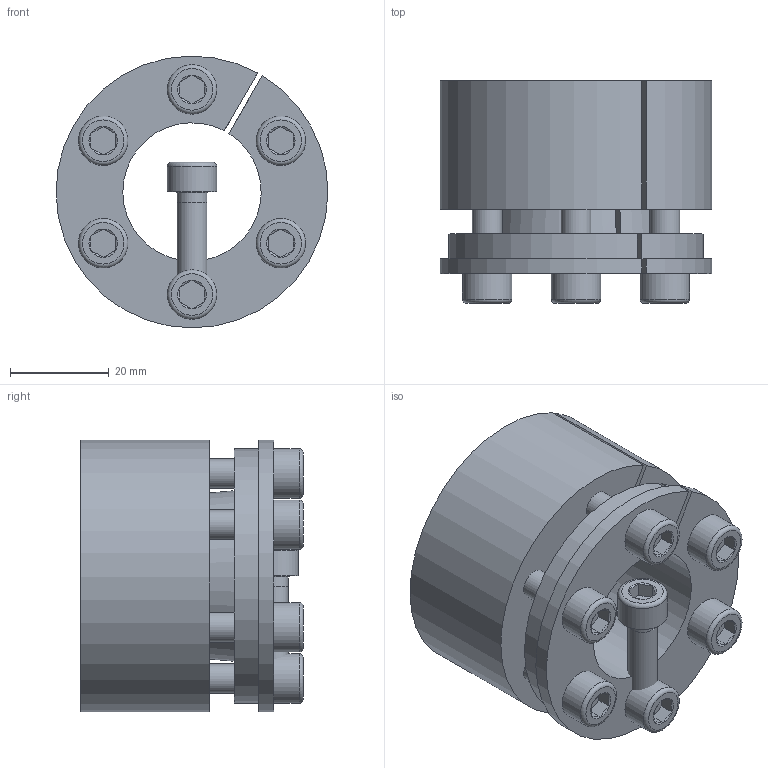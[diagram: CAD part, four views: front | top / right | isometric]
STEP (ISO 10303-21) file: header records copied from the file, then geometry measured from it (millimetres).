
FILE_DESCRIPTION( ( 'Unknown' ), '1' );
FILE_NAME( 'C:/Dokumente und Einstellungen/Sven/Desktop/homepage/cad - homepage/KBS70/KBS 70 - 28 x 55.stp', 'Unknown', ( 'Unknown' ), ( 'Unknown' ), 'XStep 1.0', 'Unknown', ' ' );
FILE_SCHEMA( ( 'automotive_design' ) );
Length unit declared in the file: millimetre
Products named in the file (3): Assem1; KBS 70 - 28 x 55; ISO EN DIN 4762 M6x25
Bounding box: 55 x 45 x 55 mm (x, y, z)
Volume: 114557.6 mm3; surface area: 46519.2 mm2
Topology: 9 solids, 9 shells, 227 faces, 467 edges, 286 vertices
Faces by surface type: plane 100, cylinder 60, cone 53, torus 14
Full cylindrical faces by diameter (mm): 5 x7, 6 x38, 10 x7
Entity records: 1694 total; most frequent: CARTESIAN_POINT 283, DIRECTION 256, ORIENTED_EDGE 190, AXIS2_PLACEMENT_3D 112, EDGE_LOOP 98, EDGE_CURVE 95, VERTEX_POINT 71, FACE_OUTER_BOUND 69
